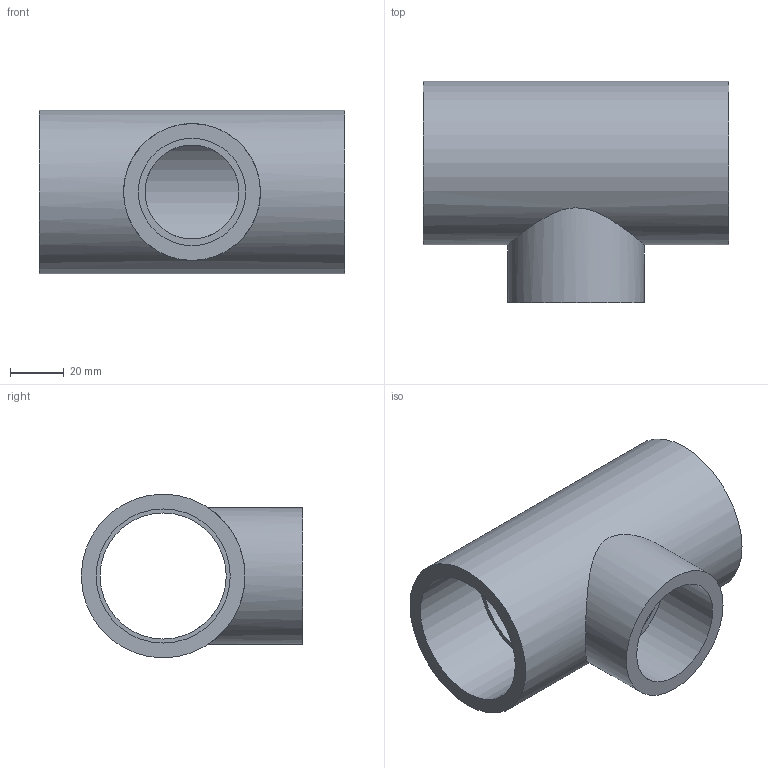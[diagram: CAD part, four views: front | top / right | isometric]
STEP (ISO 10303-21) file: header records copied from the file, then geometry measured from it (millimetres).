
FILE_DESCRIPTION(/* description */ ('PVC ti a 90° ridotto incollaggio metrico'),/* implementation_level */ '2;1');
FILE_NAME(/* name */ 'C:\Users\POLYPIPE\Desktop\DATASET INVENTOR\LIBRERIA EFFAST\RACCORDI 3DxWEB\RDR\3D_RDRTRD\3D_RDRTRD050E.stp',/* time_stamp */ '2018-01-19T15:47:05+01:00',/* author */ ('POLYPIPE'),/* organization */ ('Polypipe Italia s.r.l.'),/* preprocessor_version */ 'ST-DEVELOPER v16.1',/* originating_system */ 'Autodesk Inventor 2016',/* authorisation */ '');
FILE_SCHEMA (('CONFIG_CONTROL_DESIGN'));
Length unit declared in the file: millimetre
Products named in the file (1): 3D_RDRTRD
Bounding box: 114 x 82.5 x 61 mm (x, y, z)
Volume: 134423.9 mm3; surface area: 47792 mm2
Topology: 1 solids, 1 shells, 13 faces, 23 edges, 16 vertices
Faces by surface type: cylinder 7, plane 6
Full cylindrical faces by diameter (mm): 35 x1, 40 x1, 47 x1, 50 x2, 51 x1, 61 x1
Entity records: 422 total; most frequent: CARTESIAN_POINT 164, DIRECTION 52, EDGE_LOOP 28, ORIENTED_EDGE 28, AXIS2_PLACEMENT_3D 26, FACE_BOUND 15, VERTEX_POINT 14, EDGE_CURVE 14
